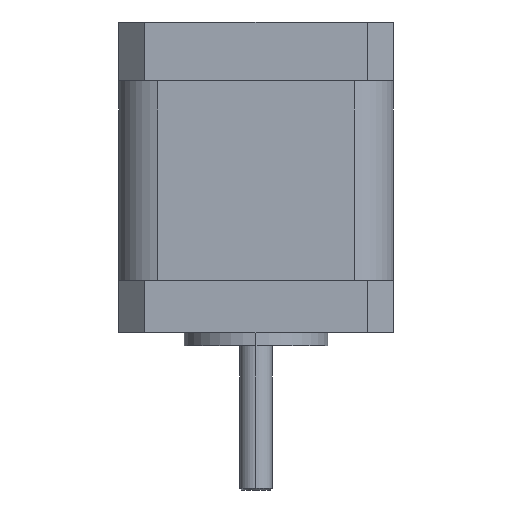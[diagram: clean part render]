
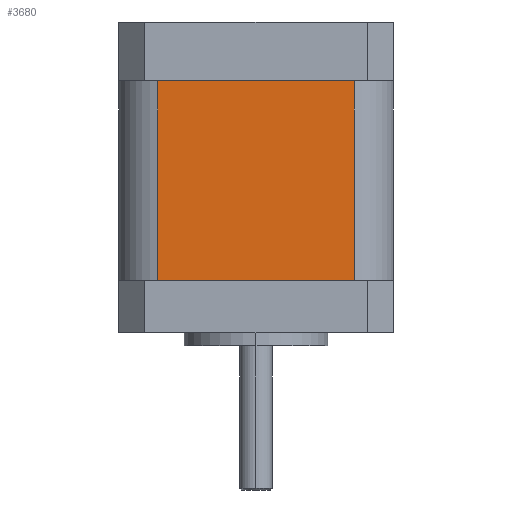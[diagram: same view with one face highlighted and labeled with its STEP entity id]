
A CAD part, left-side view. The second image highlights one B-rep face of the part: STEP entity #3680.
In plain terms, the highlighted planar face has unit normal (-1, 0, 0).
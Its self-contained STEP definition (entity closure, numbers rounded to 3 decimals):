
#362 = LINE ( 'NONE', #714, #421 ) ;
#421 = VECTOR ( 'NONE', #2478, 1000. ) ;
#714 = CARTESIAN_POINT ( 'NONE',  ( -21., -15., 30.5 ) ) ;
#764 = LINE ( 'NONE', #4296, #4917 ) ;
#837 = ORIENTED_EDGE ( 'NONE', *, *, #5342, .F. ) ;
#883 = CARTESIAN_POINT ( 'NONE',  ( -21., -46.341, 30.5 ) ) ;
#1265 = CARTESIAN_POINT ( 'NONE',  ( -21., -15., 30.5 ) ) ;
#1305 = VERTEX_POINT ( 'NONE', #1265 ) ;
#1377 = PLANE ( 'NONE',  #4703 ) ;
#1656 = EDGE_LOOP ( 'NONE', ( #4811, #4318, #3454, #837 ) ) ;
#1754 = CARTESIAN_POINT ( 'NONE',  ( -21., 15., 0. ) ) ;
#1930 = FACE_OUTER_BOUND ( 'NONE', #1656, .T. ) ;
#2171 = CARTESIAN_POINT ( 'NONE',  ( -21., -15., 0. ) ) ;
#2380 = DIRECTION ( 'NONE',  ( 1., 0., 0. ) ) ;
#2478 = DIRECTION ( 'NONE',  ( 0., 0., -1. ) ) ;
#2558 = EDGE_CURVE ( 'NONE', #5411, #2652, #764, .T. ) ;
#2652 = VERTEX_POINT ( 'NONE', #4994 ) ;
#2887 = DIRECTION ( 'NONE',  ( 0., -1., 0. ) ) ;
#2909 = DIRECTION ( 'NONE',  ( 0., 1., 0. ) ) ;
#2932 = CARTESIAN_POINT ( 'NONE',  ( -21., -46.341, 0. ) ) ;
#3204 = VECTOR ( 'NONE', #2909, 1000. ) ;
#3454 = ORIENTED_EDGE ( 'NONE', *, *, #2558, .F. ) ;
#3680 = ADVANCED_FACE ( 'NONE', ( #1930 ), #1377, .F. ) ;
#4296 = CARTESIAN_POINT ( 'NONE',  ( -21., 15., 30.5 ) ) ;
#4311 = DIRECTION ( 'NONE',  ( 0., 0., 1. ) ) ;
#4318 = ORIENTED_EDGE ( 'NONE', *, *, #4456, .F. ) ;
#4456 = EDGE_CURVE ( 'NONE', #2652, #1305, #4957, .T. ) ;
#4703 = AXIS2_PLACEMENT_3D ( 'NONE', #883, #2380, #5310 ) ;
#4811 = ORIENTED_EDGE ( 'NONE', *, *, #4908, .F. ) ;
#4908 = EDGE_CURVE ( 'NONE', #1305, #5393, #362, .T. ) ;
#4917 = VECTOR ( 'NONE', #4311, 1000. ) ;
#4957 = LINE ( 'NONE', #5301, #5236 ) ;
#4994 = CARTESIAN_POINT ( 'NONE',  ( -21., 15., 30.5 ) ) ;
#5236 = VECTOR ( 'NONE', #2887, 1000. ) ;
#5301 = CARTESIAN_POINT ( 'NONE',  ( -21., -46.341, 30.5 ) ) ;
#5310 = DIRECTION ( 'NONE',  ( 0., 1., 0. ) ) ;
#5342 = EDGE_CURVE ( 'NONE', #5393, #5411, #6404, .T. ) ;
#5393 = VERTEX_POINT ( 'NONE', #2171 ) ;
#5411 = VERTEX_POINT ( 'NONE', #1754 ) ;
#6404 = LINE ( 'NONE', #2932, #3204 ) ;
